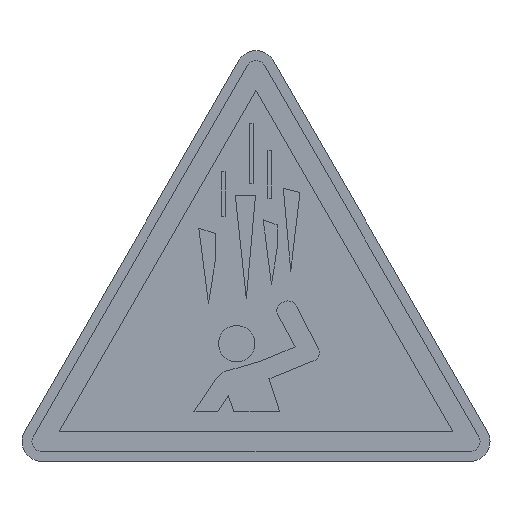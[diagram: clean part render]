
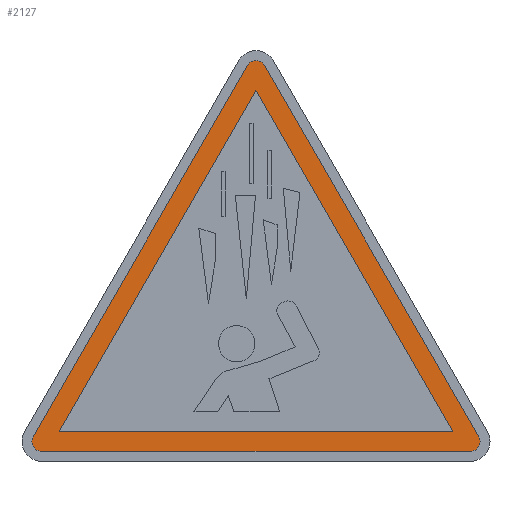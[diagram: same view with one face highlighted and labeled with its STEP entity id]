
A CAD part, top view. The second image highlights one B-rep face of the part: STEP entity #2127.
In plain terms, the highlighted planar face has unit normal (0, 0, 1).
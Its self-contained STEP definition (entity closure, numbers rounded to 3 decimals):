
#111 = VECTOR ( 'NONE', #414, 1000. ) ;
#137 = EDGE_CURVE ( 'NONE', #313, #416, #1635, .T. ) ;
#168 = CARTESIAN_POINT ( 'NONE',  ( 0., 39.301, 0.22 ) ) ;
#169 = ORIENTED_EDGE ( 'NONE', *, *, #2972, .T. ) ;
#290 = DIRECTION ( 'NONE',  ( 1., 0., 0. ) ) ;
#313 = VERTEX_POINT ( 'NONE', #2628 ) ;
#328 = VERTEX_POINT ( 'NONE', #2326 ) ;
#392 = DIRECTION ( 'NONE',  ( -0.5, -0.866, 0. ) ) ;
#405 = VECTOR ( 'NONE', #1799, 1000. ) ;
#414 = DIRECTION ( 'NONE',  ( -0.5, -0.866, 0. ) ) ;
#416 = VERTEX_POINT ( 'NONE', #2431 ) ;
#459 = LINE ( 'NONE', #3155, #2030 ) ;
#497 = AXIS2_PLACEMENT_3D ( 'NONE', #510, #1495, #1571 ) ;
#504 = EDGE_CURVE ( 'NONE', #328, #1871, #2995, .T. ) ;
#510 = CARTESIAN_POINT ( 'NONE',  ( 0., 39.301, 0.22 ) ) ;
#632 = FACE_OUTER_BOUND ( 'NONE', #2678, .T. ) ;
#658 = LINE ( 'NONE', #1117, #1464 ) ;
#688 = CARTESIAN_POINT ( 'NONE',  ( 21.536, 1., 0.22 ) ) ;
#828 = ORIENTED_EDGE ( 'NONE', *, *, #504, .T. ) ;
#836 = CARTESIAN_POINT ( 'NONE',  ( -0.866, 39.801, 0.22 ) ) ;
#885 = VERTEX_POINT ( 'NONE', #1795 ) ;
#929 = DIRECTION ( 'NONE',  ( -0.5, 0.866, 0. ) ) ;
#954 = CIRCLE ( 'NONE', #2706, 1. ) ;
#962 = EDGE_CURVE ( 'NONE', #2017, #1074, #2644, .T. ) ;
#1074 = VERTEX_POINT ( 'NONE', #2026 ) ;
#1098 = DIRECTION ( 'NONE',  ( 0., 0., 1. ) ) ;
#1117 = CARTESIAN_POINT ( 'NONE',  ( 0., 37.301, 0.22 ) ) ;
#1123 = ORIENTED_EDGE ( 'NONE', *, *, #2221, .T. ) ;
#1135 = ORIENTED_EDGE ( 'NONE', *, *, #2475, .T. ) ;
#1386 = DIRECTION ( 'NONE',  ( 0., 0., 1. ) ) ;
#1396 = CARTESIAN_POINT ( 'NONE',  ( -22.536, 2., 0.22 ) ) ;
#1405 = DIRECTION ( 'NONE',  ( 0., 0., 1. ) ) ;
#1406 = AXIS2_PLACEMENT_3D ( 'NONE', #3098, #1405, #3086 ) ;
#1464 = VECTOR ( 'NONE', #392, 1000. ) ;
#1495 = DIRECTION ( 'NONE',  ( 0., 0., 1. ) ) ;
#1571 = DIRECTION ( 'NONE',  ( 1., 0., 0. ) ) ;
#1603 = PLANE ( 'NONE',  #1932 ) ;
#1623 = CARTESIAN_POINT ( 'NONE',  ( -21.536, 2., 0.22 ) ) ;
#1635 = LINE ( 'NONE', #2904, #2454 ) ;
#1680 = ORIENTED_EDGE ( 'NONE', *, *, #137, .T. ) ;
#1684 = EDGE_CURVE ( 'NONE', #885, #2199, #2485, .T. ) ;
#1702 = CARTESIAN_POINT ( 'NONE',  ( 19.804, 3., 0.22 ) ) ;
#1715 = ORIENTED_EDGE ( 'NONE', *, *, #2427, .F. ) ;
#1749 = DIRECTION ( 'NONE',  ( 0., 0., 1. ) ) ;
#1795 = CARTESIAN_POINT ( 'NONE',  ( -19.804, 3., 0.22 ) ) ;
#1799 = DIRECTION ( 'NONE',  ( 1., 0., 0. ) ) ;
#1871 = VERTEX_POINT ( 'NONE', #688 ) ;
#1883 = CIRCLE ( 'NONE', #497, 1. ) ;
#1926 = CIRCLE ( 'NONE', #2964, 1. ) ;
#1932 = AXIS2_PLACEMENT_3D ( 'NONE', #168, #1386, #2117 ) ;
#1995 = EDGE_CURVE ( 'NONE', #2199, #2922, #459, .T. ) ;
#2004 = ORIENTED_EDGE ( 'NONE', *, *, #1684, .F. ) ;
#2017 = VERTEX_POINT ( 'NONE', #836 ) ;
#2026 = CARTESIAN_POINT ( 'NONE',  ( -22.402, 2.5, 0.22 ) ) ;
#2030 = VECTOR ( 'NONE', #929, 1000. ) ;
#2096 = VECTOR ( 'NONE', #290, 1000. ) ;
#2117 = DIRECTION ( 'NONE',  ( 1., 0., 0. ) ) ;
#2119 = VERTEX_POINT ( 'NONE', #1396 ) ;
#2127 = ADVANCED_FACE ( 'NONE', ( #632, #2332 ), #1603, .T. ) ;
#2199 = VERTEX_POINT ( 'NONE', #1702 ) ;
#2221 = EDGE_CURVE ( 'NONE', #416, #2017, #1883, .T. ) ;
#2276 = CARTESIAN_POINT ( 'NONE',  ( -19.804, 3., 0.22 ) ) ;
#2326 = CARTESIAN_POINT ( 'NONE',  ( -21.536, 1., 0.22 ) ) ;
#2332 = FACE_BOUND ( 'NONE', #2604, .T. ) ;
#2377 = ORIENTED_EDGE ( 'NONE', *, *, #962, .T. ) ;
#2427 = EDGE_CURVE ( 'NONE', #2922, #885, #658, .T. ) ;
#2431 = CARTESIAN_POINT ( 'NONE',  ( 0.866, 39.801, 0.22 ) ) ;
#2454 = VECTOR ( 'NONE', #2832, 1000. ) ;
#2474 = DIRECTION ( 'NONE',  ( 1., 0., 0. ) ) ;
#2475 = EDGE_CURVE ( 'NONE', #1074, #2119, #2794, .T. ) ;
#2485 = LINE ( 'NONE', #2276, #405 ) ;
#2520 = CARTESIAN_POINT ( 'NONE',  ( 21.536, 2., 0.22 ) ) ;
#2527 = CARTESIAN_POINT ( 'NONE',  ( -21.536, 1., 0.22 ) ) ;
#2556 = DIRECTION ( 'NONE',  ( 1., 0., 0. ) ) ;
#2604 = EDGE_LOOP ( 'NONE', ( #2004, #1715, #3150 ) ) ;
#2628 = CARTESIAN_POINT ( 'NONE',  ( 22.402, 2.5, 0.22 ) ) ;
#2644 = LINE ( 'NONE', #2834, #111 ) ;
#2678 = EDGE_LOOP ( 'NONE', ( #1123, #2377, #1135, #3180, #828, #169, #1680 ) ) ;
#2696 = EDGE_CURVE ( 'NONE', #2119, #328, #954, .T. ) ;
#2706 = AXIS2_PLACEMENT_3D ( 'NONE', #1623, #1098, #2556 ) ;
#2794 = CIRCLE ( 'NONE', #1406, 1. ) ;
#2832 = DIRECTION ( 'NONE',  ( -0.5, 0.866, 0. ) ) ;
#2834 = CARTESIAN_POINT ( 'NONE',  ( -0.866, 39.801, 0.22 ) ) ;
#2884 = CARTESIAN_POINT ( 'NONE',  ( 0., 37.301, 0.22 ) ) ;
#2904 = CARTESIAN_POINT ( 'NONE',  ( 22.402, 2.5, 0.22 ) ) ;
#2922 = VERTEX_POINT ( 'NONE', #2884 ) ;
#2964 = AXIS2_PLACEMENT_3D ( 'NONE', #2520, #1749, #2474 ) ;
#2972 = EDGE_CURVE ( 'NONE', #1871, #313, #1926, .T. ) ;
#2995 = LINE ( 'NONE', #2527, #2096 ) ;
#3086 = DIRECTION ( 'NONE',  ( 1., 0., 0. ) ) ;
#3098 = CARTESIAN_POINT ( 'NONE',  ( -21.536, 2., 0.22 ) ) ;
#3150 = ORIENTED_EDGE ( 'NONE', *, *, #1995, .F. ) ;
#3155 = CARTESIAN_POINT ( 'NONE',  ( 19.804, 3., 0.22 ) ) ;
#3180 = ORIENTED_EDGE ( 'NONE', *, *, #2696, .T. ) ;
